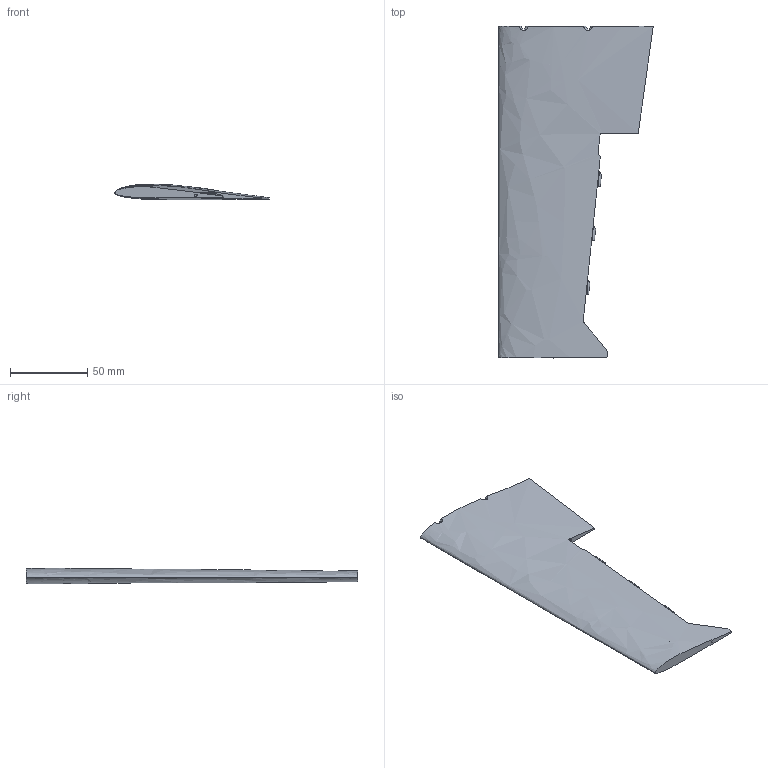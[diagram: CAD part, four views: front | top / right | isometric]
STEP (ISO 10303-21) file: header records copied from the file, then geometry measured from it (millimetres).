
FILE_DESCRIPTION(('SkyG Speed 90B - revision C6B-5 - 2026-10-08','WL-wing-left'),'2;1');
FILE_NAME('WL-wing-left_C6B-5','2026-10-08T10:12:28',('Author'),( 'Open CASCADE'),'Open CASCADE STEP processor 7.9','Open CASCADE 7.9' ,'Unknown');
FILE_SCHEMA(('AUTOMOTIVE_DESIGN { 1 0 10303 214 1 1 1 1 }'));
Length unit declared in the file: millimetre
Products named in the file (1): WL-wing-left C6B-5
Bounding box: 99.95 x 215 x 10.05 mm (x, y, z)
Volume: 92677.5 mm3; surface area: 37367.4 mm2
Topology: 1 solids, 1 shells, 104 faces, 328 edges, 225 vertices
Faces by surface type: plane 81, cylinder 16, cone 4, bspline 3
Full cylindrical faces by diameter (mm): 1.6 x4, 2.2 x1, 5.2 x1
Entity records: 15437 total; most frequent: CARTESIAN_POINT 9679, DIRECTION 893, ORIENTED_EDGE 656, PCURVE 656, DEFINITIONAL_REPRESENTATION 656, LINE 446, VECTOR 446, EDGE_CURVE 328
